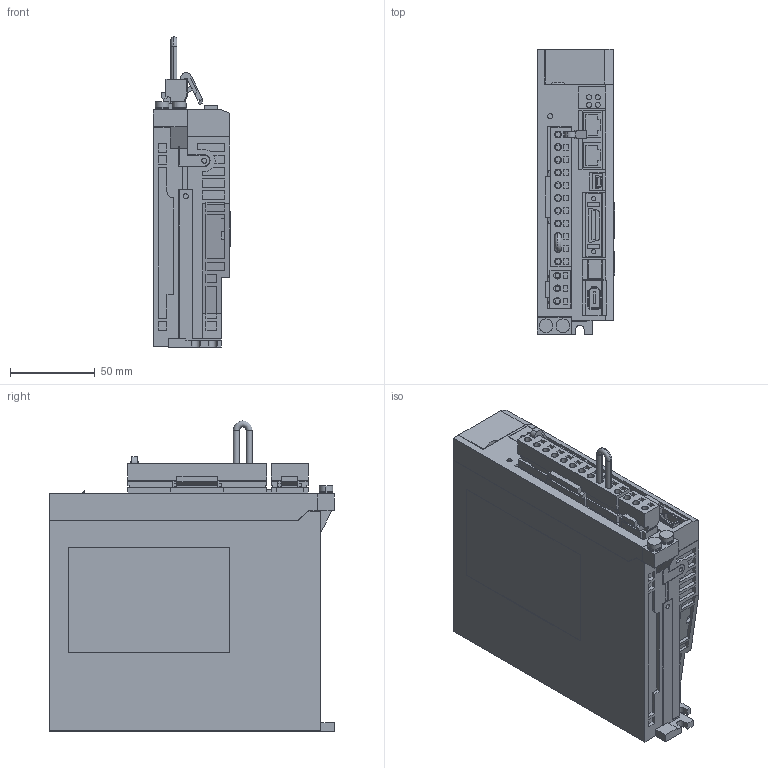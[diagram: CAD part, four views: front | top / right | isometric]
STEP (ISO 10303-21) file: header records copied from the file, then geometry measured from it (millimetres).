
FILE_DESCRIPTION (( 'STEP AP203' ), '1' );
FILE_NAME ('sgd7s_r90aa0a.STEP', '2015-01-21T05:15:33', ( '匠エンジニアリング山之内' ), ( 'TAKUMI-Engniaring' ), 'SwSTEP 2.0', 'SolidWorks 2006303', '' );
FILE_SCHEMA (( 'CONFIG_CONTROL_DESIGN' ));
Length unit declared in the file: millimetre
Products named in the file (11): sgd7s_r90aa0a_pin; sgd7s_r90aa0a_cover3; sgd7s_r90aa0a; sgd7s_r90aa0a_base; sgd7s_r90aa0a_connector; sgd7s_r90aa0a_connector_2; sgd7s_r90aa0a_cable; sgd7s_r90aa0a_connector_1; sgd7s_r90aa0a_cover; sgd7s_r90aa0a_cover2; sgd7s_r90aa0a_connector_3
Assembly tree (11 placements, depth 3):
  sgd7s_r90aa0a
    sgd7s_r90aa0a_cover3
    sgd7s_r90aa0a_connector
      sgd7s_r90aa0a_connector_2
      sgd7s_r90aa0a_pin
      sgd7s_r90aa0a_cable
    sgd7s_r90aa0a_connector_1
    sgd7s_r90aa0a_cover2  x2
    sgd7s_r90aa0a_cover
    sgd7s_r90aa0a_connector_3
    sgd7s_r90aa0a_base
Bounding box: 45.5 x 168 x 183 mm (x, y, z)
Volume: 904062.2 mm3; surface area: 136199.2 mm2
Topology: 10 solids, 10 shells, 1718 faces, 4562 edges, 3009 vertices
Faces by surface type: plane 1560, cylinder 155, torus 2, sphere 1
Entity records: 52985 total; most frequent: CARTESIAN_POINT 9193, ORIENTED_EDGE 9016, DIRECTION 8250, EDGE_CURVE 4508, VECTOR 4190, LINE 4190, VERTEX_POINT 2973, AXIS2_PLACEMENT_3D 2030
